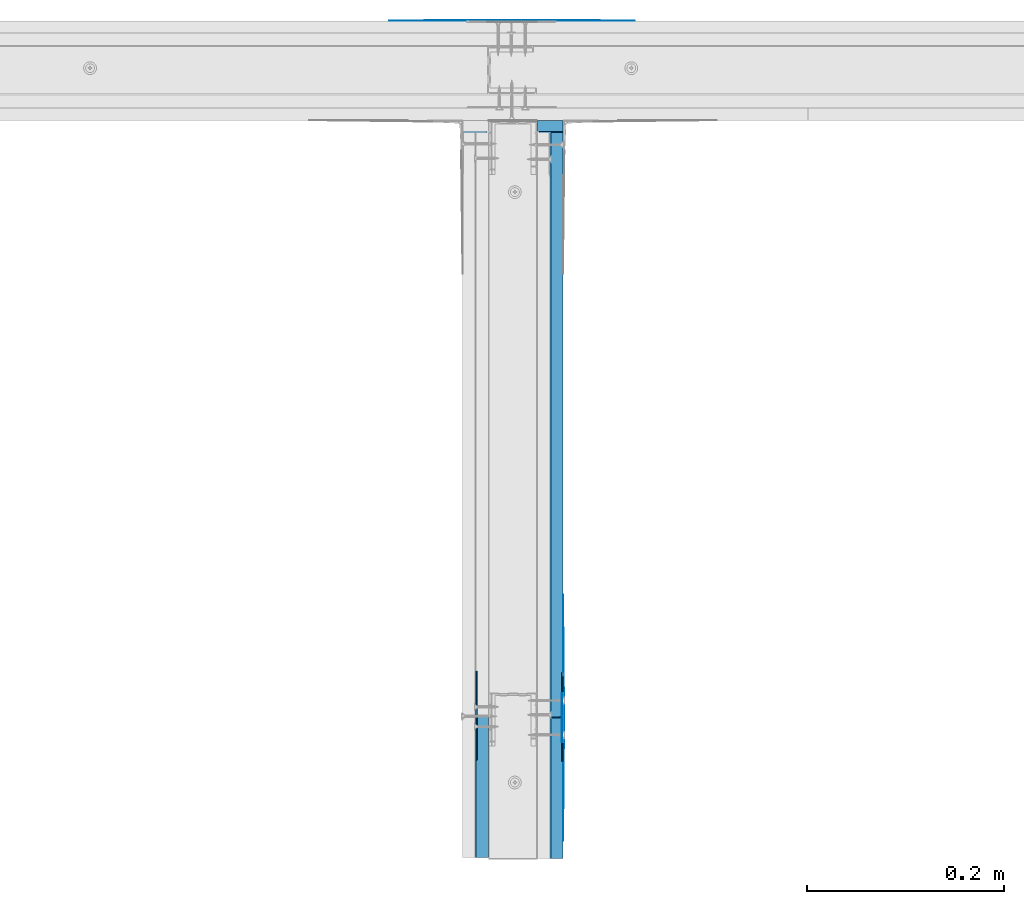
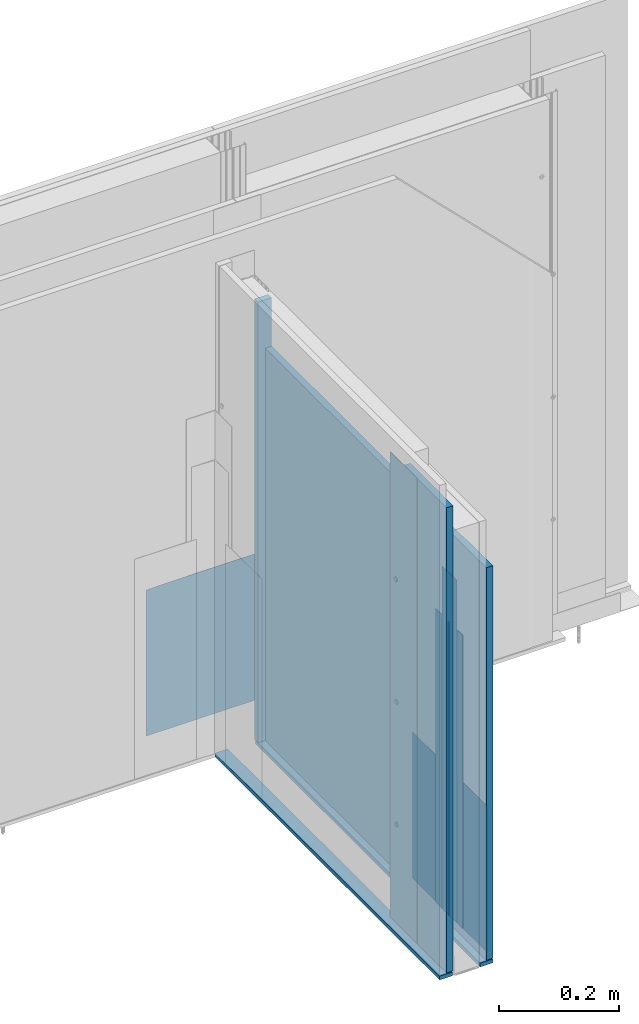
# One storey, part 6 of 89: 11 walls.
"""IFC2X3 building model written with IfcOpenShell, lengths in millimetres."""

import ifcopenshell
import ifcopenshell.guid

model = None  # the IFC model being written
_history = None  # IfcOwnerHistory: only IFC2X3 demands one
_inside = {}  # id of a spatial element -> (the spatial element, [elements in it])
_under = {}  # id of a project, library or spatial element -> (it, [spatial elements below it])
_declared = {}  # id of a project -> (the project, [libraries it declares])
_typed = {}  # id of a type object -> (the type object, [elements of that type])
_made_of = {}  # id of a material, layer set ... -> (it, [elements and type objects made of it])


def new_model(schema):
    """Start an empty IFC model of exactly this schema.

    Asked for "IFC4X3", IfcOpenShell would pick the latest addendum, in which some entities
    have other attributes; the version numbers below select the first issue.
    IFC2X3 requires an IfcOwnerHistory on every rooted entity: one is made here for all.
    """
    global model, _history
    if schema == "IFC4X3":
        model = ifcopenshell.file(schema_version=(4, 3, 0, 0))
    else:
        model = ifcopenshell.file(schema=schema)
    _inside.clear()
    _under.clear()
    _declared.clear()
    _typed.clear()
    _made_of.clear()
    _history = None
    if model.schema == "IFC2X3":
        org = make("IfcOrganization", Name="unknown")
        user = make(
            "IfcPersonAndOrganization",
            ThePerson=make("IfcPerson", FamilyName="unknown"),
            TheOrganization=org,
        )
        app = make(
            "IfcApplication",
            ApplicationDeveloper=org,
            Version="unknown",
            ApplicationFullName="unknown",
            ApplicationIdentifier="unknown",
        )
        _history = make(
            "IfcOwnerHistory",
            OwningUser=user,
            OwningApplication=app,
            ChangeAction="ADDED",
            CreationDate=0,
        )
    return model


def make(cls, **values):
    """One entity of the class cls with the attributes given. An attribute that is None is left unset."""
    return model.create_entity(
        cls, **{name: value for name, value in values.items() if value is not None}
    )


def entity(cls, *values):
    """Any entity or typed value of the class cls, its attributes in the order of the schema. None: left unset."""
    e = model.create_entity(cls)
    for i, value in enumerate(values):
        if value is not None:
            e[i] = value
    return e


def rooted(cls, **values):
    """An entity with a GlobalId (a new one), such as an element, a storey or a relation."""
    return make(cls, GlobalId=ifcopenshell.guid.new(), OwnerHistory=_history, **values)


def si_unit(unit_type, name, prefix=None):
    """IfcSIUnit, for example si_unit("LENGTHUNIT", "METRE", prefix="MILLI")."""
    return make("IfcSIUnit", UnitType=unit_type, Prefix=prefix, Name=name)


def converted_unit(unit_type, name, factor, base, dimensions=None, offset=None):
    """IfcConversionBasedUnit, such as the inch: factor (a typed value) times the base unit."""
    return make(
        "IfcConversionBasedUnit"
        if offset is None
        else "IfcConversionBasedUnitWithOffset",
        ConversionOffset=offset,
        Dimensions=None
        if dimensions is None
        else entity("IfcDimensionalExponents", *dimensions),
        UnitType=unit_type,
        Name=name,
        ConversionFactor=make(
            "IfcMeasureWithUnit", ValueComponent=factor, UnitComponent=base
        ),
    )


def assignment(units):
    """IfcUnitAssignment: the units of a project."""
    return None if units is None else make("IfcUnitAssignment", Units=units)


def point(xyz):
    """IfcCartesianPoint."""
    return None if xyz is None else make("IfcCartesianPoint", Coordinates=xyz)


def direction(xyz):
    """IfcDirection."""
    return None if xyz is None else make("IfcDirection", DirectionRatios=xyz)


def frame(location, z_axis=None, x_axis=None):
    """IfcAxis2Placement3D, a coordinate frame: its origin and axes. An axis left out is left unset."""
    return make(
        "IfcAxis2Placement3D",
        Location=point(location),
        Axis=direction(z_axis),
        RefDirection=direction(x_axis),
    )


def origin():
    """The frame at (0, 0, 0) with its axes left unset."""
    return frame((0.0, 0.0, 0.0))


def origin_with_axes():
    """The frame at (0, 0, 0) with the z axis (0, 0, 1) and the x axis (1, 0, 0) written out."""
    return frame((0.0, 0.0, 0.0), z_axis=(0.0, 0.0, 1.0), x_axis=(1.0, 0.0, 0.0))


def place(relative_to, where):
    """IfcLocalPlacement: puts the frame where relative to a parent placement (None: the world)."""
    return make(
        "IfcLocalPlacement", PlacementRelTo=relative_to, RelativePlacement=where
    )


def context(
    kind, dimensions, precision=None, world=None, true_north=None, identifier=None
):
    """IfcGeometricRepresentationContext, for example the 3D "Model" context."""
    return make(
        "IfcGeometricRepresentationContext",
        ContextIdentifier=identifier,
        ContextType=kind,
        CoordinateSpaceDimension=dimensions,
        Precision=precision,
        WorldCoordinateSystem=world,
        TrueNorth=true_north,
    )


def project(units=None, contexts=None):
    """IfcProject with its units and contexts."""
    return rooted(
        "IfcProject",
        Name="project",
        RepresentationContexts=contexts,
        UnitsInContext=assignment(units),
    )


def spatial(cls, under=None, at=None, **own):
    """A site, building, storey or space (cls), placed at a placement, below another one or the project."""
    s = rooted(cls, ObjectPlacement=at, **own)
    if under is not None:
        _under.setdefault(under.id(), (under, []))[1].append(s)
    return s


def faces_of(points, faces, orient=None, outer=None):
    """IfcFace entities. A face is a list of loops; a loop is a list of indices into points, from 0.

    orient and outer hold one flag for each loop. By default every Orientation is true, the
    first loop of a face is its IfcFaceOuterBound and the others are IfcFaceBound.
    """
    made = []
    for i, loops in enumerate(faces):
        bounds = []
        for j, loop in enumerate(loops):
            is_outer = j == 0 if outer is None else outer[i][j]
            bounds.append(
                make(
                    "IfcFaceOuterBound" if is_outer else "IfcFaceBound",
                    Bound=make("IfcPolyLoop", Polygon=[points[k] for k in loop]),
                    Orientation=True if orient is None else orient[i][j],
                )
            )
        made.append(make("IfcFace", Bounds=bounds))
    return made


def faceted_brep(points, faces, orient=None, outer=None, voids=None):
    """IfcFacetedBrep: a solid bounded by flat faces; with voids (closed shells), ...WithVoids."""
    shared = [point(p) for p in points]
    hull = make("IfcClosedShell", CfsFaces=faces_of(shared, faces, orient, outer))
    if voids is None:
        return make("IfcFacetedBrep", Outer=hull)
    return make(
        "IfcFacetedBrepWithVoids",
        Outer=hull,
        Voids=[
            make(cls, CfsFaces=faces_of(shared, fs, o, b)) for cls, fs, o, b in voids
        ],
    )


def shape(context_of_items, identifier, shape_type, items):
    """IfcShapeRepresentation: the items that make up one representation, for example the "Body"."""
    return make(
        "IfcShapeRepresentation",
        ContextOfItems=context_of_items,
        RepresentationIdentifier=identifier,
        RepresentationType=shape_type,
        Items=items,
    )


def made_of(thing, what):
    """Note that an element or type object is made of a material, layer set ...; save() writes the relation."""
    if what is not None:
        _made_of.setdefault(what.id(), (what, []))[1].append(thing)
    return thing


def element(
    cls,
    number,
    at=None,
    inside=None,
    cuts=None,
    type_object=None,
    material=None,
    context=None,
    identifier="Body",
    shape_type=None,
    held_by="IfcProductDefinitionShape",
    body=None,
    shapes=None,
    **own,
):
    """One element of the class cls, such as IfcWall. Its Tag is "e" and its number.

    at: its placement. inside: the storey or other place that contains it. cuts: it is an
    opening in that element (IfcRelVoidsElement). A single representation is given by context,
    identifier, shape_type and body (its items); several are given by shapes. held_by: the class
    of the entity that holds the representations. save() writes the other relations.
    """
    e = rooted(cls, Tag="e%d" % number, ObjectPlacement=at, **own)
    if body is not None:
        shapes = [shape(context, identifier, shape_type, body)]
    if shapes is not None:
        e.Representation = make(held_by, Representations=shapes)
    if inside is not None:
        _inside.setdefault(inside.id(), (inside, []))[1].append(e)
    if cuts is not None:
        rooted(
            "IfcRelVoidsElement", RelatingBuildingElement=cuts, RelatedOpeningElement=e
        )
    if type_object is not None:
        _typed.setdefault(type_object.id(), (type_object, []))[1].append(e)
    return made_of(e, material)


def aggregate(whole, parts):
    """IfcRelAggregates: a whole, such as a stair, and the parts it consists of."""
    return rooted("IfcRelAggregates", RelatingObject=whole, RelatedObjects=parts)


def save(model, path):
    """Write the relations noted so far, then the file.

    IfcRelAggregates (storeys below a building ...), IfcRelContainedInSpatialStructure (elements
    in a storey), IfcRelDefinesByType, IfcRelAssociatesMaterial and IfcRelDeclares: one each for
    every whole, place, type object, material and project.
    """
    for whole, parts in _under.values():
        aggregate(whole, parts)
    for where, things in _inside.values():
        rooted(
            "IfcRelContainedInSpatialStructure",
            RelatedElements=things,
            RelatingStructure=where,
        )
    for kind, things in _typed.values():
        rooted("IfcRelDefinesByType", RelatedObjects=things, RelatingType=kind)
    for what, things in _made_of.values():
        rooted("IfcRelAssociatesMaterial", RelatedObjects=things, RelatingMaterial=what)
    for by, libraries in _declared.values():
        rooted("IfcRelDeclares", RelatingContext=by, RelatedDefinitions=libraries)
    model.write(path)


model = new_model("IFC2X3")

# Units and contexts
model_context = context("Model", 3, precision=1e-05, world=origin(), true_north=direction((0.0, 1.0, 0.0)))
ifc_project = project(units=[si_unit("LENGTHUNIT", "METRE", prefix="MILLI"), si_unit("AREAUNIT", "SQUARE_METRE"), si_unit("VOLUMEUNIT", "CUBIC_METRE"), converted_unit("PLANEANGLEUNIT", "DEGREE", entity("IfcPlaneAngleMeasure", 0.01745), si_unit("PLANEANGLEUNIT", "RADIAN"), dimensions=[0, 0, 0, 0, 0, 0, 0]), si_unit("SOLIDANGLEUNIT", "STERADIAN"), si_unit("MASSUNIT", "GRAM"), si_unit("TIMEUNIT", "SECOND"), si_unit("THERMODYNAMICTEMPERATUREUNIT", "DEGREE_CELSIUS"), si_unit("LUMINOUSINTENSITYUNIT", "LUMEN")], contexts=[model_context])

# Site, building, storey
site_placement = place(None, origin_with_axes())
site = spatial("IfcSite", under=ifc_project, at=site_placement, Name="Default Site", CompositionType="ELEMENT")
building_placement = place(site_placement, origin_with_axes())
building = spatial("IfcBuilding", under=site, at=building_placement, Name="Default Building", CompositionType="ELEMENT")
storey_placement = place(building_placement, origin_with_axes())
storey = spatial("IfcBuildingStorey", under=building, at=storey_placement, Name="Default Building Storey", CompositionType="ELEMENT", Elevation=0.0)

# Walls
wall_1_placement = place(storey_placement, frame((2078.085683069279, -1267.454953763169, 7.54842138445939), z_axis=(0.0, 0.0, 1.0), x_axis=(-1.0, -8.049116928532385e-16, 0.0)))
element("IfcWall", 1, at=wall_1_placement, inside=storey, Name="Dedykowana masa szpachlowa Rigips - wykończeniowa", context=model_context, shape_type="Brep", body=[
    faceted_brep([(-612.459216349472, -3390.556721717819, 2.449996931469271), (-862.459216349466, -3390.556721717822, 2.449996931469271), (-812.4612643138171, -3391.196716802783, 2.449996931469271), (-762.4602403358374, -3391.516720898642, 2.449996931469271), (-712.458192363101, -3391.516720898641, 2.449996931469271), (-662.4571683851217, -3391.19671680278, 2.449996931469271), (-762.4602403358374, -3391.516720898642, 300.8000000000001), (-812.4612643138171, -3391.196716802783, 300.8000000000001), (-862.459216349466, -3390.556721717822, 300.8000000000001), (-612.459216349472, -3390.556721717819, 300.8000000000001), (-662.4571683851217, -3391.19671680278, 300.8000000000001), (-712.458192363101, -3391.516720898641, 300.8000000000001)], [[[0, 1, 2, 3, 4, 5]], [[6, 7, 8, 9, 10, 11]], [[9, 0, 5, 10]], [[10, 5, 4, 11]], [[11, 4, 3, 6]], [[6, 3, 2, 7]], [[1, 8, 7, 2]], [[0, 9, 8, 1]]]),
])
wall_2_placement = place(storey_placement, frame((-523.0826130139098, 2152.39279256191, 9.300067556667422), z_axis=(0.0, 0.0, 1.0), x_axis=(-4.423544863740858e-16, 1.0, 0.0)))
element("IfcWall", 2, at=wall_2_placement, inside=storey, Name="Taśma spoinowa RIGIPS", context=model_context, shape_type="Brep", body=[
    faceted_brep([(-712.4592163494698, -3389.356721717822, 700.7999999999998), (-712.4592163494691, -3389.856721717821, 700.7999999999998), (-762.4592163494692, -3389.856721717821, 700.7999999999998), (-762.45921634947, -3389.35672171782, 700.7999999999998), (-712.4592163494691, -3389.856721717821, 2.449996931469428), (-712.4592163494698, -3389.35672171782, 2.449996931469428), (-762.45921634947, -3389.35672171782, 2.449996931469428), (-762.4592163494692, -3389.856721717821, 2.449996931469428)], [[[0, 1, 2, 3]], [[4, 5, 6, 7]], [[5, 0, 3, 6]], [[6, 3, 2, 7]], [[7, 2, 1, 4]], [[4, 1, 0, 5]]]),
])
wall_3_placement = place(storey_placement, frame((2854.974108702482, 2615.933576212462, 1161.75164617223), z_axis=(0.0, 0.0, 1.0), x_axis=(6.349781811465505e-13, -1.0, 0.0)))
element("IfcWall", 3, at=wall_3_placement, inside=storey, Name="Płyta gipsowo-kartonowa RIGIPS PRO (4PRO™)", context=model_context, shape_type="Brep", body=[
    faceted_brep([(1155.000000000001, 12.49999999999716, -1150.001581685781), (606.1635732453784, 12.49999999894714, -1150.001581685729), (606.1635732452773, 12.49999999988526, -350.0000000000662), (1154.999999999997, 12.49999999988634, -350.0000000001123), (606.1635732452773, -3.919979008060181e-10, -350.0000000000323), (606.1635732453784, -1.330121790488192e-09, -1150.001581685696), (1199.999999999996, -1.072038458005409e-10, -350.0000000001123), (1200.000000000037, 10.49999999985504, -350.0000000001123), (1199.965925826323, 10.7588190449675, -350.0000000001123), (1199.866025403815, 10.99999999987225, -350.0000000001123), (1199.70710678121, 11.20710678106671, -350.0000000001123), (1199.500000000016, 11.36602540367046, -350.0000000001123), (1199.258819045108, 11.46592582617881, -350.0000000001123), (1198.999999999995, 11.49999999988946, -350.0000000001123), (1158.999999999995, 11.49999999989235, -350.0000000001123), (1199.965925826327, 10.75881904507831, -1150.001581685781), (1199.866025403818, 10.99999999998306, -1150.001581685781), (1199.707106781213, 11.20710678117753, -1150.001581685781), (1199.50000000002, 11.36602540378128, -1150.001581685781), (1199.258819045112, 11.46592582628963, -1150.001581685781), (1199.0, 11.50000000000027, -1150.001581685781), (1158.999999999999, 11.50000000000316, -1150.001581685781), (1200.0, 3.609557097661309e-12, -1150.001581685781), (1200.000000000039, 10.49999999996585, -1150.001581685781)], [[[0, 1, 2, 3]], [[4, 2, 1, 5]], [[3, 2, 4, 6, 7, 8, 9, 10, 11, 12, 13, 14]], [[9, 8, 15, 16]], [[10, 9, 16, 17]], [[11, 10, 17, 18]], [[12, 11, 18, 19]], [[13, 12, 19, 20]], [[14, 13, 20, 21]], [[3, 14, 21, 0]], [[4, 5, 22, 6]], [[7, 6, 22, 23]], [[8, 7, 23, 15]], [[15, 23, 22, 5, 1, 0, 21, 20, 19, 18, 17, 16]]]),
])
wall_4_placement = place(storey_placement, frame((2854.974108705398, 214.9335762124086, 1161.751646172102), z_axis=(0.0, 0.0, 1.0), x_axis=(-6.37705166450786e-13, 1.0, 0.0)))
element("IfcWall", 4, at=wall_4_placement, inside=storey, Name="Płyta gipsowo-kartonowa RIGIPS PRO (4PRO™)", context=model_context, shape_type="Brep", body=[
    faceted_brep([(1057.204216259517, 4.042703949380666e-10, -349.9999999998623), (1057.204216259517, -12.49999999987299, -349.9999999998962), (1057.204216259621, -12.49999999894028, -1150.00158168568), (1057.204216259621, 1.336979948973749e-09, -1150.001581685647), (1154.999999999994, -12.49999999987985, -349.9999999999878), (1199.999999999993, 1.126181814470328e-10, -349.9999999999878), (1200.000000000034, -10.49999999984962, -349.9999999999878), (1199.96592582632, -10.75881904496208, -349.9999999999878), (1199.866025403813, -10.99999999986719, -349.9999999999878), (1199.707106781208, -11.20710678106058, -349.9999999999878), (1199.500000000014, -11.36602540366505, -349.9999999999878), (1199.258819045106, -11.46592582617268, -349.9999999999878), (1198.999999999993, -11.49999999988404, -349.9999999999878), (1158.999999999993, -11.49999999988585, -349.9999999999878), (1199.965925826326, -10.75881904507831, -1150.001581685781), (1199.866025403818, -10.99999999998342, -1150.001581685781), (1199.707106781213, -11.20710678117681, -1150.001581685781), (1199.50000000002, -11.36602540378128, -1150.001581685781), (1199.258819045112, -11.46592582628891, -1150.001581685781), (1199.0, -11.50000000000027, -1150.001581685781), (1159.0, -11.50000000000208, -1150.001581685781), (1155.000000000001, -12.49999999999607, -1150.001581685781), (1200.0, -3.609557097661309e-12, -1150.001581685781), (1200.000000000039, -10.49999999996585, -1150.001581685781)], [[[0, 1, 2, 3]], [[4, 1, 0, 5, 6, 7, 8, 9, 10, 11, 12, 13]], [[8, 7, 14, 15]], [[9, 8, 15, 16]], [[10, 9, 16, 17]], [[11, 10, 17, 18]], [[12, 11, 18, 19]], [[13, 12, 19, 20]], [[4, 13, 20, 21]], [[21, 2, 1, 4]], [[0, 3, 22, 5]], [[6, 5, 22, 23]], [[7, 6, 23, 14]], [[14, 23, 22, 3, 2, 21, 20, 19, 18, 17, 16, 15]]]),
])
wall_5_placement = place(storey_placement, frame((-523.0826130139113, 2152.392792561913, 9.300067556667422), z_axis=(0.0, 0.0, 1.0), x_axis=(-4.423544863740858e-16, 1.0, 0.0)))
element("IfcWall", 5, at=wall_5_placement, inside=storey, Name="Dedykowana masa szpachlowa Rigips - wykończeniowa", context=model_context, shape_type="Brep", body=[
    faceted_brep([(-612.459216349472, -3390.556721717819, 2.449996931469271), (-862.459216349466, -3390.556721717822, 2.449996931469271), (-812.4612643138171, -3391.196716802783, 2.449996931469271), (-762.4602403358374, -3391.516720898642, 2.449996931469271), (-712.458192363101, -3391.516720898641, 2.449996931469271), (-662.4571683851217, -3391.19671680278, 2.449996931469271), (-762.4602403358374, -3391.516720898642, 300.8000000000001), (-812.4612643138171, -3391.196716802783, 300.8000000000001), (-862.459216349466, -3390.556721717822, 300.8000000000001), (-612.459216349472, -3390.556721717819, 300.8000000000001), (-662.4571683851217, -3391.19671680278, 300.8000000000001), (-712.458192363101, -3391.516720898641, 300.8000000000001)], [[[0, 1, 2, 3, 4, 5]], [[6, 7, 8, 9, 10, 11]], [[9, 0, 5, 10]], [[10, 5, 4, 11]], [[11, 4, 3, 6]], [[6, 3, 2, 7]], [[1, 8, 7, 2]], [[0, 9, 8, 1]]]),
])
wall_6_placement = place(storey_placement, frame((2866.120278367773, 2010.77000296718, -203.4038718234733), z_axis=(-2.220446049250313e-16, 1.0, -8.881784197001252e-16), x_axis=(1.97215226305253e-31, -8.881784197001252e-16, -1.0)))
element("IfcWall", 6, at=wall_6_placement, inside=storey, Name="Dedykowana masa szpachlowa Rigips - konstrukcyjna", context=model_context, shape_type="Brep", body=[
    faceted_brep([(-215.1539363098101, 24.6461696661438, 6.136247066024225e-12), (-215.1539363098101, -1.353830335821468, 6.136247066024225e-12), (-1113.404515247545, -1.353830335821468, 5.053379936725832e-12), (-1113.404515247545, 24.6461696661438, 5.053379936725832e-12), (-215.1539363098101, -1.353830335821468, 11.37091977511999), (-1113.404515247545, -1.353830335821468, 11.37091977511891), (-215.1539363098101, 24.6461696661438, 11.37091977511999), (-1113.404515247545, 24.6461696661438, 11.37091977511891)], [[[0, 1, 2, 3]], [[1, 4, 5, 2]], [[4, 6, 7, 5]], [[6, 0, 3, 7]], [[7, 3, 2, 5]], [[0, 6, 4, 1]]]),
])
wall_7_placement = place(storey_placement, frame((-523.0826130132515, 678.4743598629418, 9.300067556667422), z_axis=(0.0, 0.0, 1.0), x_axis=(-3.226585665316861e-16, -1.0, 0.0)))
element("IfcWall", 7, at=wall_7_placement, inside=storey, Name="Dedykowana masa szpachlowa Rigips - konstrukcyjna", context=model_context, shape_type="Brep", body=[
    faceted_brep([(-737.4838396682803, 3387.669590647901, 600.7999999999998), (-737.4592163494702, 3387.356721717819, 600.7999999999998), (-737.434593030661, 3387.669590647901, 600.7999999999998), (-737.3613293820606, 3387.974755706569, 600.7999999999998), (-737.2412293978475, 3388.264702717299, 600.7999999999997), (-737.07725033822, 3388.532292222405, 600.7999999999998), (-736.8734299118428, 3388.770935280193, 600.7999999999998), (-736.6347868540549, 3388.974755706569, 600.7999999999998), (-736.3671973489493, 3389.138734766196, 600.7999999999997), (-736.0772503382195, 3389.25883475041, 600.7999999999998), (-735.7720852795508, 3389.332098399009, 600.7999999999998), (-735.45921634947, 3389.356721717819, 600.8000000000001), (-692.4592163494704, 3389.35672171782, 600.8000000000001), (-691.4592163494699, 3390.55672171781, 600.7999999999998), (-782.4592163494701, 3390.556721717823, 600.8000000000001), (-782.4592163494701, 3389.356721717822, 600.8000000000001), (-739.4592163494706, 3389.356721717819, 600.8000000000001), (-739.1463474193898, 3389.332098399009, 600.7999999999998), (-738.8411823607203, 3389.25883475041, 600.7999999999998), (-738.5512353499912, 3389.138734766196, 600.8000000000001), (-738.2836458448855, 3388.974755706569, 600.8000000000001), (-738.0450027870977, 3388.770935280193, 600.7999999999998), (-737.8411823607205, 3388.532292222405, 600.7999999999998), (-737.6772033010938, 3388.264702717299, 600.7999999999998), (-737.55710331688, 3387.974755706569, 600.7999999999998), (-691.4592163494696, 3390.556721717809, 2.449996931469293), (-692.45921634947, 3389.356721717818, 2.449996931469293), (-735.4592163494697, 3389.356721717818, 2.449996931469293), (-735.7720852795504, 3389.332098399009, 2.449996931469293), (-736.0772503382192, 3389.258834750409, 2.449996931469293), (-736.3671973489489, 3389.138734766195, 2.449996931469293), (-736.6347868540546, 3388.974755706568, 2.449996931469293), (-736.8734299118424, 3388.770935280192, 2.449996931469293), (-737.0772503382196, 3388.532292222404, 2.449996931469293), (-737.2412293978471, 3388.264702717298, 2.449996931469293), (-737.3613293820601, 3387.974755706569, 2.449996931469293), (-737.4345930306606, 3387.6695906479, 2.449996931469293), (-737.4592163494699, 3387.356721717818, 2.449996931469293), (-737.48383966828, 3387.6695906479, 2.449996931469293), (-737.5571033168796, 3387.974755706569, 2.449996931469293), (-737.6772033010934, 3388.264702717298, 2.449996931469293), (-737.8411823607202, 3388.532292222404, 2.449996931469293), (-738.0450027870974, 3388.770935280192, 2.449996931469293), (-738.2836458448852, 3388.974755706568, 2.449996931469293), (-738.5512353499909, 3389.138734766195, 2.449996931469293), (-738.8411823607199, 3389.258834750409, 2.449996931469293), (-739.1463474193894, 3389.332098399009, 2.449996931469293), (-739.4592163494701, 3389.356721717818, 2.449996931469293), (-782.4592163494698, 3389.356721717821, 2.449996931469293), (-782.4592163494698, 3390.556721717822, 2.449996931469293)], [[[0, 1, 2, 3, 4, 5, 6, 7, 8, 9, 10, 11, 12, 13, 14, 15, 16, 17, 18, 19, 20, 21, 22, 23, 24]], [[25, 26, 27, 28, 29, 30, 31, 32, 33, 34, 35, 36, 37, 38, 39, 40, 41, 42, 43, 44, 45, 46, 47, 48, 49]], [[26, 12, 11, 27]], [[10, 9, 29, 28]], [[28, 27, 11, 10]], [[8, 30, 29, 9]], [[7, 6, 32, 31]], [[31, 30, 8, 7]], [[5, 4, 34, 33]], [[33, 32, 6, 5]], [[3, 35, 34, 4]], [[2, 1, 37, 36]], [[36, 35, 3, 2]], [[0, 24, 39, 38]], [[38, 37, 1, 0]], [[23, 40, 39, 24]], [[22, 21, 42, 41]], [[41, 40, 23, 22]], [[20, 19, 44, 43]], [[43, 42, 21, 20]], [[18, 45, 44, 19]], [[17, 16, 47, 46]], [[46, 45, 18, 17]], [[47, 16, 15, 48]], [[48, 15, 14, 49]], [[49, 14, 13, 25]], [[25, 13, 12, 26]]]),
])
wall_8_placement = place(storey_placement, frame((2842.82793903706, 1276.327005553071, 4.135671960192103), z_axis=(0.0, 0.0, 1.0), x_axis=(-5.5645861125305e-16, -1.0, 0.0)))
element("IfcWall", 8, at=wall_8_placement, inside=storey, Name="Dedykowana masa szpachlowa Rigips - konstrukcyjna", context=model_context, shape_type="Brep", body=[
    faceted_brep([(4.189213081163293, 24.64616966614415, -1.751646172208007), (4.189213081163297, 0.0, -1.751646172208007), (-745.8139171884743, 3.609557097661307e-13, -1.751646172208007), (-745.8139171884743, 24.64616966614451, -1.751646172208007), (4.189213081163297, 0.0, 5.862746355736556), (-745.8139171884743, 3.609557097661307e-13, 5.862746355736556), (4.189213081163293, 24.64616966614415, 5.862746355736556), (-745.8139171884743, 24.64616966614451, 5.862746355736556)], [[[0, 1, 2, 3]], [[1, 4, 5, 2]], [[4, 6, 7, 5]], [[6, 0, 3, 7]], [[7, 3, 2, 5]], [[0, 6, 4, 1]]]),
])
wall_9_placement = place(storey_placement, frame((2791.474108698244, 216.1932812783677, 1161.751646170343), z_axis=(0.0, 0.0, 1.0), x_axis=(-6.387668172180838e-13, 1.0, 0.0)))
element("IfcWall", 9, at=wall_9_placement, inside=storey, Name="Płyta gipsowo-kartonowa RIGIPS PRO (4PRO™)", context=model_context, shape_type="Brep", body=[
    faceted_brep([(1056.944511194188, -2.302897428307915e-10, -201.7510027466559), (1056.944511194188, 12.50000000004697, -201.7510027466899), (1056.944511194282, 12.49999999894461, -1150.00158168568), (1056.944511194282, -1.332648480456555e-09, -1150.001581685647), (1155.000000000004, 12.50000000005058, -201.7510027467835), (1200.000000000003, 5.703100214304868e-11, -201.7510027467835), (1200.000000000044, 10.50000000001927, -201.7510027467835), (1199.96592582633, 10.75881904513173, -201.7510027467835), (1199.866025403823, 11.00000000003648, -201.7510027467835), (1199.707106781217, 11.20710678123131, -201.7510027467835), (1199.500000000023, 11.3660254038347, -201.7510027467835), (1199.258819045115, 11.46592582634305, -201.7510027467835), (1199.000000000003, 11.50000000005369, -201.7510027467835), (1159.000000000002, 11.50000000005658, -201.7510027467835), (1199.965925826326, 10.75881904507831, -1150.001581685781), (1199.866025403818, 10.99999999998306, -1150.001581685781), (1199.707106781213, 11.20710678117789, -1150.001581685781), (1199.50000000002, 11.36602540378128, -1150.001581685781), (1199.258819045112, 11.46592582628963, -1150.001581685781), (1198.999999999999, 11.50000000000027, -1150.001581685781), (1158.999999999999, 11.50000000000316, -1150.001581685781), (1155.000000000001, 12.49999999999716, -1150.001581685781), (1200.0, 3.609557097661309e-12, -1150.001581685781), (1200.000000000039, 10.49999999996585, -1150.001581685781)], [[[0, 1, 2, 3]], [[4, 1, 0, 5, 6, 7, 8, 9, 10, 11, 12, 13]], [[8, 7, 14, 15]], [[9, 8, 15, 16]], [[10, 9, 16, 17]], [[11, 10, 17, 18]], [[12, 11, 18, 19]], [[13, 12, 19, 20]], [[4, 13, 20, 21]], [[21, 2, 1, 4]], [[0, 3, 22, 5]], [[6, 5, 22, 23]], [[7, 6, 23, 14]], [[14, 23, 22, 3, 2, 21, 20, 19, 18, 17, 16, 15]]]),
])
wall_10_placement = place(storey_placement, frame((6169.530830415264, 679.7340649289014, 421.6186750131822), z_axis=(0.0, 0.0, 1.0), x_axis=(-2.636779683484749e-16, -1.0, 0.0)))
element("IfcWall", 10, at=wall_10_placement, inside=storey, Name="Dedykowana masa szpachlowa Rigips - konstrukcyjna", context=model_context, shape_type="Brep", body=[
    faceted_brep([(-737.4838396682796, -3387.669590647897, 538.38196841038), (-737.4592163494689, -3387.356721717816, 538.38196841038), (-737.4345930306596, -3387.669590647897, 538.38196841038), (-737.3613293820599, -3387.974755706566, 538.38196841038), (-737.241229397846, -3388.264702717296, 538.38196841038), (-737.0772503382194, -3388.532292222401, 538.38196841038), (-736.8734299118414, -3388.770935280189, 538.38196841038), (-736.6347868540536, -3388.974755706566, 538.38196841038), (-736.3671973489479, -3389.138734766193, 538.38196841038), (-736.0772503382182, -3389.258834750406, 538.38196841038), (-735.7720852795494, -3389.332098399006, 538.38196841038), (-735.4592163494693, -3389.356721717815, 538.38196841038), (-692.459216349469, -3389.356721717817, 538.38196841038), (-691.4592163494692, -3390.556721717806, 538.38196841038), (-782.4592163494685, -3390.556721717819, 538.38196841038), (-782.4592163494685, -3389.35672171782, 538.38196841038), (-739.4592163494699, -3389.356721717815, 538.38196841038), (-739.1463474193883, -3389.332098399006, 538.38196841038), (-738.8411823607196, -3389.258834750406, 538.38196841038), (-738.5512353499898, -3389.138734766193, 538.38196841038), (-738.2836458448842, -3388.974755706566, 538.38196841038), (-738.0450027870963, -3388.770935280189, 538.38196841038), (-737.8411823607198, -3388.532292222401, 538.38196841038), (-737.6772033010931, -3388.264702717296, 538.38196841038), (-737.5571033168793, -3387.974755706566, 538.38196841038), (-691.4592163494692, -3390.556721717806, -409.8686105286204), (-692.459216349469, -3389.356721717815, -409.8686105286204), (-735.4592163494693, -3389.356721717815, -409.8686105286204), (-735.7720852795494, -3389.332098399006, -409.8686105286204), (-736.0772503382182, -3389.258834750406, -409.8686105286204), (-736.3671973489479, -3389.138734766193, -409.8686105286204), (-736.6347868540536, -3388.974755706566, -409.8686105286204), (-736.8734299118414, -3388.770935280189, -409.8686105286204), (-737.0772503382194, -3388.532292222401, -409.8686105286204), (-737.241229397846, -3388.264702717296, -409.8686105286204), (-737.3613293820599, -3387.974755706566, -409.8686105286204), (-737.4345930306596, -3387.669590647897, -409.8686105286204), (-737.4592163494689, -3387.356721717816, -409.8686105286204), (-737.4838396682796, -3387.669590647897, -409.8686105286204), (-737.5571033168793, -3387.974755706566, -409.8686105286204), (-737.6772033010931, -3388.264702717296, -409.8686105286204), (-737.8411823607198, -3388.532292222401, -409.8686105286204), (-738.0450027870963, -3388.770935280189, -409.8686105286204), (-738.2836458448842, -3388.974755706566, -409.8686105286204), (-738.5512353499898, -3389.138734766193, -409.8686105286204), (-738.8411823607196, -3389.258834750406, -409.8686105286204), (-739.1463474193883, -3389.332098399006, -409.8686105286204), (-739.4592163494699, -3389.356721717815, -409.8686105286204), (-782.4592163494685, -3389.35672171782, -409.8686105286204), (-782.4592163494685, -3390.556721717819, -409.8686105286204)], [[[0, 1, 2, 3, 4, 5, 6, 7, 8, 9, 10, 11, 12, 13, 14, 15, 16, 17, 18, 19, 20, 21, 22, 23, 24]], [[25, 26, 27, 28, 29, 30, 31, 32, 33, 34, 35, 36, 37, 38, 39, 40, 41, 42, 43, 44, 45, 46, 47, 48, 49]], [[26, 12, 11, 27]], [[10, 9, 29, 28]], [[28, 27, 11, 10]], [[8, 30, 29, 9]], [[7, 6, 32, 31]], [[31, 30, 8, 7]], [[5, 4, 34, 33]], [[33, 32, 6, 5]], [[3, 35, 34, 4]], [[2, 1, 37, 36]], [[36, 35, 3, 2]], [[0, 24, 39, 38]], [[38, 37, 1, 0]], [[23, 40, 39, 24]], [[22, 21, 42, 41]], [[41, 40, 23, 22]], [[20, 19, 44, 43]], [[43, 42, 21, 20]], [[18, 45, 44, 19]], [[17, 16, 47, 46]], [[46, 45, 18, 17]], [[47, 16, 15, 48]], [[48, 15, 14, 49]], [[49, 14, 13, 25]], [[25, 13, 12, 26]]]),
])
wall_11_placement = place(storey_placement, frame((2765.47410869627, 1277.327005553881, 4.135671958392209), z_axis=(0.0, 0.0, 1.0), x_axis=(-5.5645861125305e-16, -1.0, 0.0)))
element("IfcWall", 11, at=wall_11_placement, inside=storey, Name="Dedykowana masa szpachlowa Rigips - konstrukcyjna", context=model_context, shape_type="Brep", body=[
    faceted_brep([(4.189213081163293, 24.64616966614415, -1.751646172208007), (4.189213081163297, 0.0, -1.751646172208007), (-745.8139171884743, 3.609557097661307e-13, -1.751646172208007), (-745.8139171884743, 24.64616966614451, -1.751646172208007), (4.189213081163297, 0.0, 5.862746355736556), (-745.8139171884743, 3.609557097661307e-13, 5.862746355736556), (4.189213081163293, 24.64616966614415, 5.862746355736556), (-745.8139171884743, 24.64616966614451, 5.862746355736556)], [[[0, 1, 2, 3]], [[1, 4, 5, 2]], [[4, 6, 7, 5]], [[6, 0, 3, 7]], [[7, 3, 2, 5]], [[0, 6, 4, 1]]]),
])

save(model, "model.ifc")
